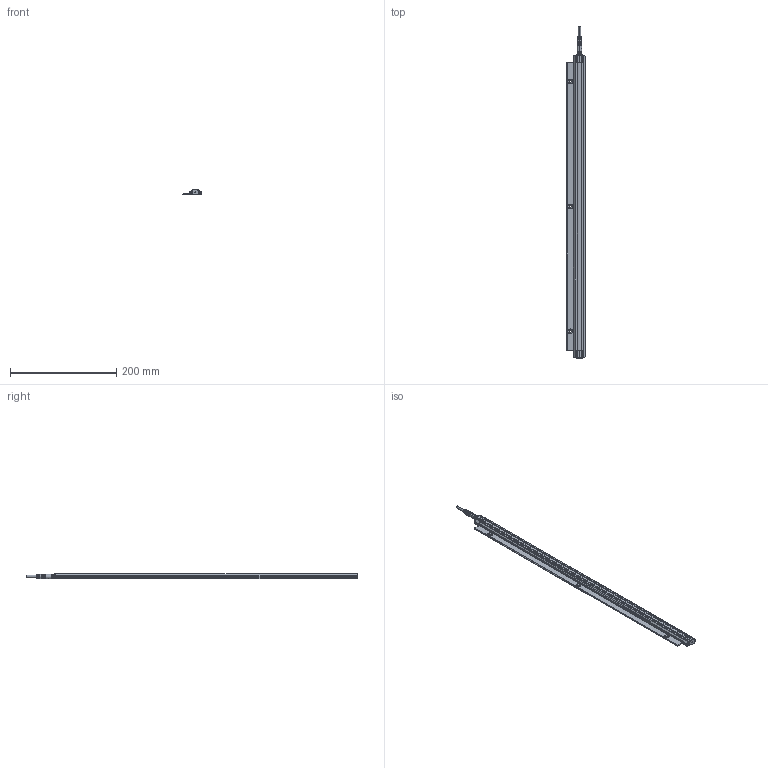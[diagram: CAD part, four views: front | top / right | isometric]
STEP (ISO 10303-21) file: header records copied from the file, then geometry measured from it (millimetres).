
FILE_DESCRIPTION (( 'STEP AP214' ), '1' );
FILE_NAME ('ILGA-L-K2-0570mm.STEP', '2026-04-25T08:26:23', ( '' ), ( '' ), 'SwSTEP 2.0', 'SolidWorks 2025', '' );
FILE_SCHEMA (( 'AUTOMOTIVE_DESIGN' ));
Length unit declared in the file: millimetre
Products named in the file (1): ILGA-L-K2-0570mm
Bounding box: 35 x 624.5 x 10.7 mm (x, y, z)
Surface area: 90660.9 mm2 (no closed solid volume)
Topology: 0 solids, 13 shells, 929 faces, 2438 edges, 1511 vertices
Faces by surface type: cylinder 380, plane 343, cone 84, bspline 56, torus 50, sphere 16
Entity records: 41150 total; most frequent: CARTESIAN_POINT 8492, ORIENTED_EDGE 4757, DIRECTION 4668, EDGE_CURVE 2386, AXIS2_PLACEMENT_3D 1791, VERTEX_POINT 1511, VECTOR 1086, LINE 1086
